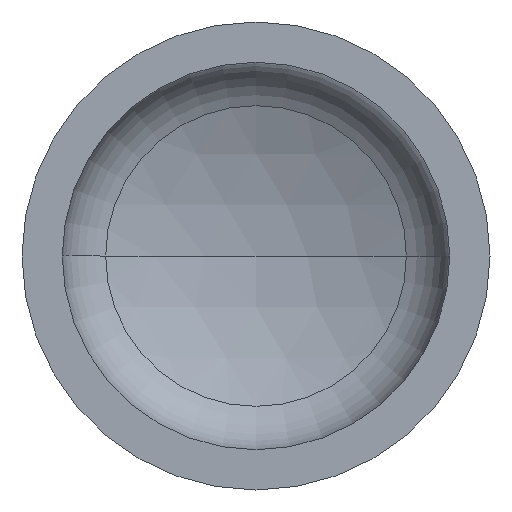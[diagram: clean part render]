
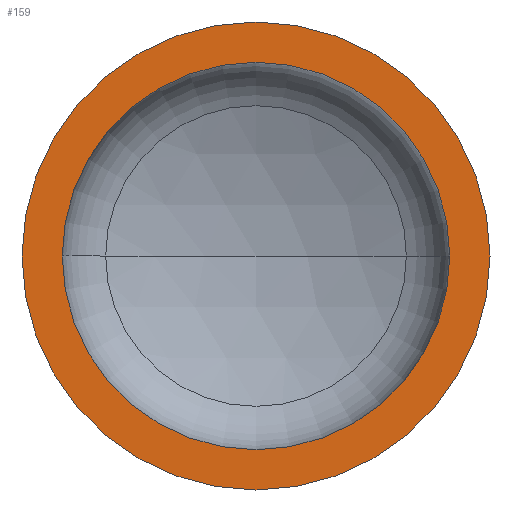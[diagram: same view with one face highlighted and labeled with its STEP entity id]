
A CAD part, front view. The second image highlights one B-rep face of the part: STEP entity #159.
In plain terms, the highlighted planar face has unit normal (0, -1, 0).
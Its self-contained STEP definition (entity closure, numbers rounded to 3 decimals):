
#10 = CARTESIAN_POINT ( 'NONE',  ( -500., 0., 0. ) ) ;
#11 = AXIS2_PLACEMENT_3D ( 'NONE', #313, #32, #289 ) ;
#18 = CARTESIAN_POINT ( 'NONE',  ( -500., 0., 0. ) ) ;
#30 = AXIS2_PLACEMENT_3D ( 'NONE', #170, #395, #407 ) ;
#32 = DIRECTION ( 'NONE',  ( 0., -1., 0. ) ) ;
#33 = AXIS2_PLACEMENT_3D ( 'NONE', #10, #257, #254 ) ;
#48 = ORIENTED_EDGE ( 'NONE', *, *, #371, .F. ) ;
#55 = AXIS2_PLACEMENT_3D ( 'NONE', #182, #379, #381 ) ;
#56 = AXIS2_PLACEMENT_3D ( 'NONE', #346, #344, #349 ) ;
#65 = ORIENTED_EDGE ( 'NONE', *, *, #72, .T. ) ;
#72 = EDGE_CURVE ( 'NONE', #209, #96, #186, .T. ) ;
#78 = EDGE_CURVE ( 'NONE', #101, #113, #370, .T. ) ;
#96 = VERTEX_POINT ( 'NONE', #298 ) ;
#101 = VERTEX_POINT ( 'NONE', #190 ) ;
#105 = ORIENTED_EDGE ( 'NONE', *, *, #220, .T. ) ;
#111 = EDGE_LOOP ( 'NONE', ( #178, #48 ) ) ;
#113 = VERTEX_POINT ( 'NONE', #206 ) ;
#159 = ADVANCED_FACE ( 'NONE', ( #348, #405 ), #199, .F. ) ;
#170 = CARTESIAN_POINT ( 'NONE',  ( 0., 0., 0. ) ) ;
#178 = ORIENTED_EDGE ( 'NONE', *, *, #78, .F. ) ;
#182 = CARTESIAN_POINT ( 'NONE',  ( 0., 0., 0. ) ) ;
#186 = CIRCLE ( 'NONE', #56, 500. ) ;
#190 = CARTESIAN_POINT ( 'NONE',  ( 414., 0., 0. ) ) ;
#199 = PLANE ( 'NONE',  #33 ) ;
#206 = CARTESIAN_POINT ( 'NONE',  ( -414., 0., 0. ) ) ;
#209 = VERTEX_POINT ( 'NONE', #18 ) ;
#220 = EDGE_CURVE ( 'NONE', #96, #209, #343, .T. ) ;
#254 = DIRECTION ( 'NONE',  ( -1., 0., 0. ) ) ;
#257 = DIRECTION ( 'NONE',  ( 0., 1., 0. ) ) ;
#274 = EDGE_LOOP ( 'NONE', ( #105, #65 ) ) ;
#289 = DIRECTION ( 'NONE',  ( 1., 0., 0. ) ) ;
#298 = CARTESIAN_POINT ( 'NONE',  ( 500., 0., 0. ) ) ;
#313 = CARTESIAN_POINT ( 'NONE',  ( 0., 0., 0. ) ) ;
#343 = CIRCLE ( 'NONE', #30, 500. ) ;
#344 = DIRECTION ( 'NONE',  ( 0., -1., 0. ) ) ;
#346 = CARTESIAN_POINT ( 'NONE',  ( 0., 0., 0. ) ) ;
#348 = FACE_BOUND ( 'NONE', #111, .T. ) ;
#349 = DIRECTION ( 'NONE',  ( 1., 0., 0. ) ) ;
#370 = CIRCLE ( 'NONE', #55, 414. ) ;
#371 = EDGE_CURVE ( 'NONE', #113, #101, #383, .T. ) ;
#379 = DIRECTION ( 'NONE',  ( 0., -1., 0. ) ) ;
#381 = DIRECTION ( 'NONE',  ( 1., 0., 0. ) ) ;
#383 = CIRCLE ( 'NONE', #11, 414. ) ;
#395 = DIRECTION ( 'NONE',  ( 0., -1., 0. ) ) ;
#405 = FACE_OUTER_BOUND ( 'NONE', #274, .T. ) ;
#407 = DIRECTION ( 'NONE',  ( 1., 0., 0. ) ) ;
